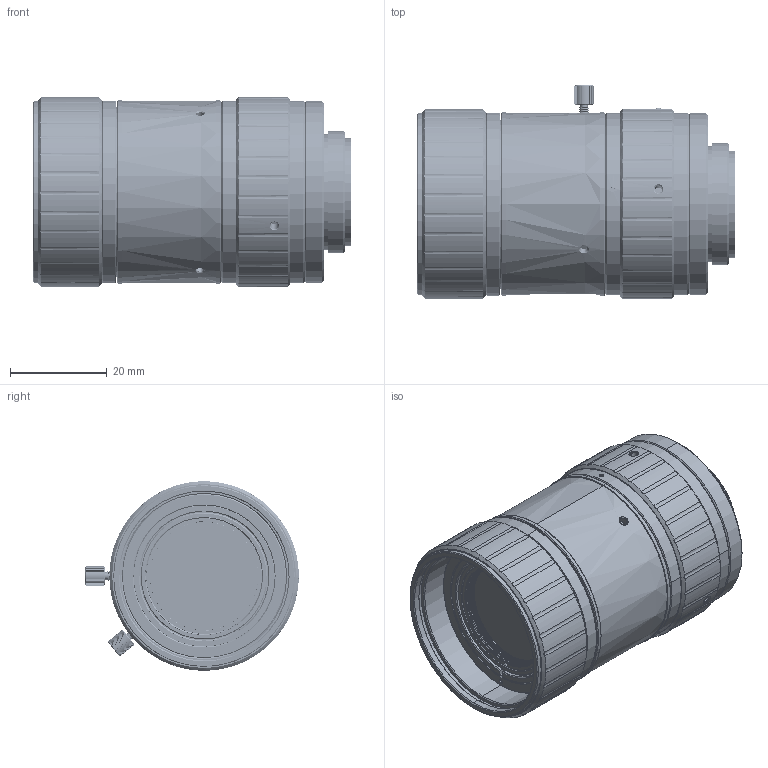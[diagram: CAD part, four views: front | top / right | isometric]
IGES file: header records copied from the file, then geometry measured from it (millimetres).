
Start section: SolidWorks IGES file using analytic representation for surfaces
Global section: file name: 2HF:\产品\产品图\90本公司\MJ9943xx12\MJ994325120\装配\总装\QM994325121总装\QM994325121总装.IGS; native system: SolidWorks 2018; preprocessor: SolidWorks 2018; author: hai; date: 240111.140429; units: millimetre
Bounding box: 65.74 x 44.2 x 39.2 mm (x, y, z)
Surface area: 49860.5 mm2 (no closed solid volume)
Topology: 0 solids, 0 shells, 1629 faces, 19895 edges, 19860 vertices
Faces by surface type: revolution 1007, bspline 622
